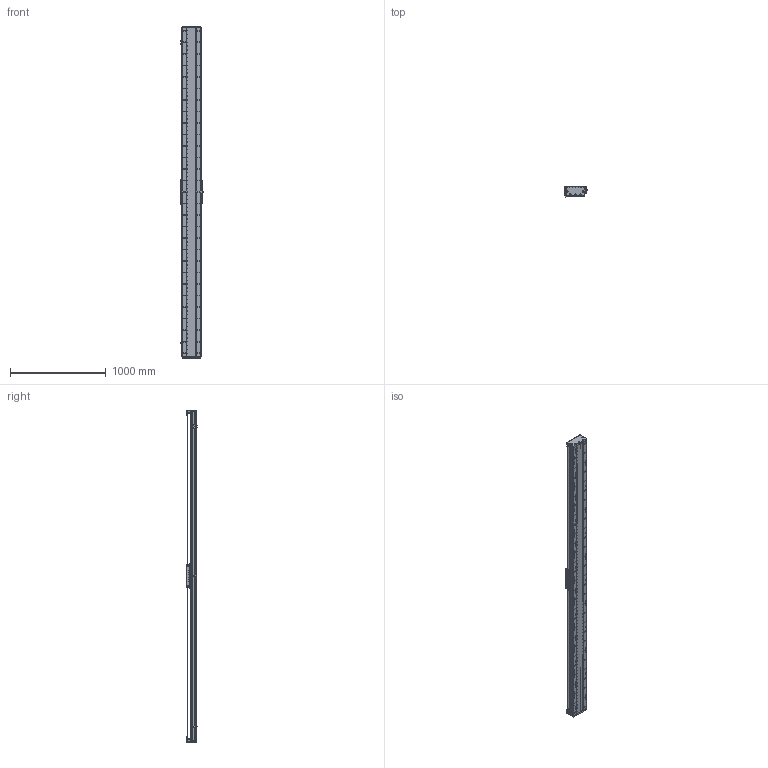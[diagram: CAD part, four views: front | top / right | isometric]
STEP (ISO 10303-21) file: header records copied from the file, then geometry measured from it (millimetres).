
FILE_DESCRIPTION (( 'STEP AP203' ), '1' );
FILE_NAME ('DA-C195-C3-T3120-C010-0.2 眻盄萇儂.STEP', '2025-08-15T01:27:59', ( '' ), ( '' ), 'SwSTEP 2.0', 'SolidWorks 2019', '' );
FILE_SCHEMA (( 'CONFIG_CONTROL_DESIGN' ));
Length unit declared in the file: millimetre
Products named in the file (15): DA195詩湍菜輸; DA195詩湍郪璃; DA195詩湍嶺輸; IU-CU195-L-00 菁釱(L3420); MS200 棠掑喜S315-T240; PM-T45ㄗ侂狟ㄘ; DA165-GYP-00 光电感应片(默认); DA95-HXJ-00 遣喳砎蝶; 葩璃 DA95-GT-T-00; CU195-C3賑輸-俋楷; IU-CU195-L 菁釱絳寢; DA-C195-GD-DB-H-00 傷啣; DA-C195-C3-T3120-C010-0.2 眻盄萇儂; DA195詩湍裔啣; LMT黍杅芛
Assembly tree (29 placements, depth 3):
  DA-C195-C3-T3120-C010-0.2 眻盄萇儂
    DA195詩湍郪璃
      DA195詩湍菜輸  x2
      DA195詩湍裔啣
      DA195詩湍嶺輸  x2
      DA95-HXJ-00 遣喳砎蝶  x8
      DA-C195-GD-DB-H-00 傷啣  x2
    IU-CU195-L 菁釱絳寢
      IU-CU195-L-00 菁釱(L3420)
      葩璃 DA95-GT-T-00  x4
    LMT黍杅芛
    MS200 棠掑喜S315-T240
    PM-T45ㄗ侂狟ㄘ  x3
    DA165-GYP-00 光电感应片(默认)
    CU195-C3賑輸-俋楷
Bounding box: 248 x 115.45 x 3460 mm (x, y, z)
Volume: 19654916.8 mm3; surface area: 5835243.1 mm2
Topology: 86 solids, 118 shells, 4686 faces, 13551 edges, 8593 vertices
Faces by surface type: cylinder 2706, plane 1378, cone 514, torus 52, sphere 36
Entity records: 157899 total; most frequent: CARTESIAN_POINT 45080, ORIENTED_EDGE 24018, DIRECTION 22446, EDGE_CURVE 12009, AXIS2_PLACEMENT_3D 8449, VERTEX_POINT 7795, LINE 5548, VECTOR 5548
